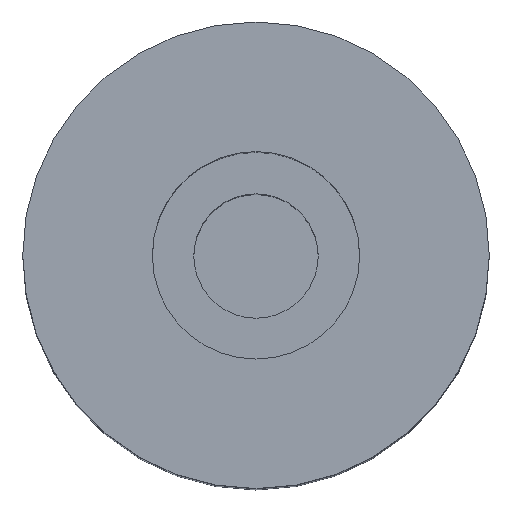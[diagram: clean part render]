
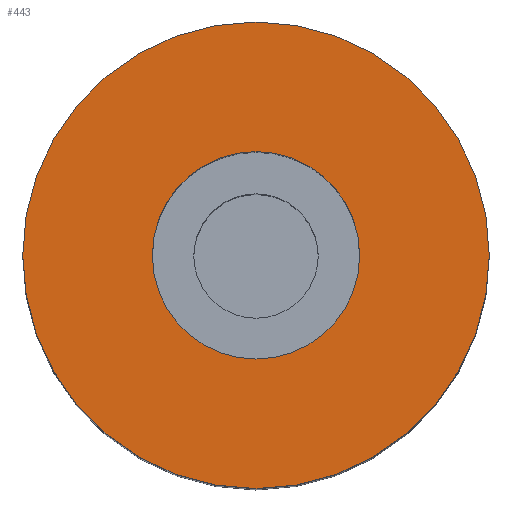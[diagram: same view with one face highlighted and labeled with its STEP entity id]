
A CAD part, top view. The second image highlights one B-rep face of the part: STEP entity #443.
In plain terms, the highlighted planar face has unit normal (0, 0, 1).
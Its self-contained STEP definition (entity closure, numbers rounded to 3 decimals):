
#16 = DIRECTION ( 'NONE',  ( 1., 0., 0. ) ) ;
#24 = EDGE_LOOP ( 'NONE', ( #347, #92 ) ) ;
#42 = DIRECTION ( 'NONE',  ( 1., 0., 0. ) ) ;
#47 = AXIS2_PLACEMENT_3D ( 'NONE', #131, #353, #16 ) ;
#83 = DIRECTION ( 'NONE',  ( 1., 0., 0. ) ) ;
#92 = ORIENTED_EDGE ( 'NONE', *, *, #463, .F. ) ;
#107 = DIRECTION ( 'NONE',  ( 1., 0., 0. ) ) ;
#131 = CARTESIAN_POINT ( 'NONE',  ( 0., 0., 20.3 ) ) ;
#132 = AXIS2_PLACEMENT_3D ( 'NONE', #155, #462, #107 ) ;
#144 = CARTESIAN_POINT ( 'NONE',  ( 0., 0., 20.3 ) ) ;
#155 = CARTESIAN_POINT ( 'NONE',  ( 0., 0., 20.3 ) ) ;
#158 = DIRECTION ( 'NONE',  ( 0., 0., 1. ) ) ;
#195 = CIRCLE ( 'NONE', #239, 4.5 ) ;
#235 = AXIS2_PLACEMENT_3D ( 'NONE', #859, #471, #42 ) ;
#239 = AXIS2_PLACEMENT_3D ( 'NONE', #144, #518, #83 ) ;
#262 = EDGE_CURVE ( 'NONE', #574, #635, #678, .T. ) ;
#269 = CARTESIAN_POINT ( 'NONE',  ( -2., 0., 20.3 ) ) ;
#283 = CIRCLE ( 'NONE', #235, 2. ) ;
#287 = FACE_OUTER_BOUND ( 'NONE', #690, .T. ) ;
#346 = ORIENTED_EDGE ( 'NONE', *, *, #408, .T. ) ;
#347 = ORIENTED_EDGE ( 'NONE', *, *, #604, .F. ) ;
#353 = DIRECTION ( 'NONE',  ( 0., 0., 1. ) ) ;
#354 = FACE_BOUND ( 'NONE', #24, .T. ) ;
#402 = CARTESIAN_POINT ( 'NONE',  ( 0., 0., 20.3 ) ) ;
#404 = DIRECTION ( 'NONE',  ( 1., 0., 0. ) ) ;
#408 = EDGE_CURVE ( 'NONE', #635, #574, #195, .T. ) ;
#412 = CARTESIAN_POINT ( 'NONE',  ( 2., 0., 20.3 ) ) ;
#443 = ADVANCED_FACE ( 'NONE', ( #354, #287 ), #611, .T. ) ;
#462 = DIRECTION ( 'NONE',  ( 0., 0., 1. ) ) ;
#463 = EDGE_CURVE ( 'NONE', #771, #830, #283, .T. ) ;
#471 = DIRECTION ( 'NONE',  ( 0., 0., 1. ) ) ;
#518 = DIRECTION ( 'NONE',  ( 0., 0., 1. ) ) ;
#545 = CARTESIAN_POINT ( 'NONE',  ( -4.5, 0., 20.3 ) ) ;
#546 = CARTESIAN_POINT ( 'NONE',  ( 4.5, 0., 20.3 ) ) ;
#574 = VERTEX_POINT ( 'NONE', #545 ) ;
#582 = AXIS2_PLACEMENT_3D ( 'NONE', #402, #158, #404 ) ;
#590 = ORIENTED_EDGE ( 'NONE', *, *, #262, .T. ) ;
#604 = EDGE_CURVE ( 'NONE', #830, #771, #758, .T. ) ;
#611 = PLANE ( 'NONE',  #132 ) ;
#635 = VERTEX_POINT ( 'NONE', #546 ) ;
#678 = CIRCLE ( 'NONE', #47, 4.5 ) ;
#690 = EDGE_LOOP ( 'NONE', ( #590, #346 ) ) ;
#758 = CIRCLE ( 'NONE', #582, 2. ) ;
#771 = VERTEX_POINT ( 'NONE', #269 ) ;
#830 = VERTEX_POINT ( 'NONE', #412 ) ;
#859 = CARTESIAN_POINT ( 'NONE',  ( 0., 0., 20.3 ) ) ;
